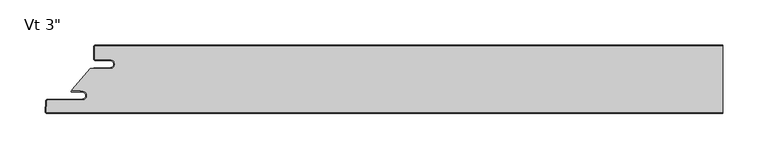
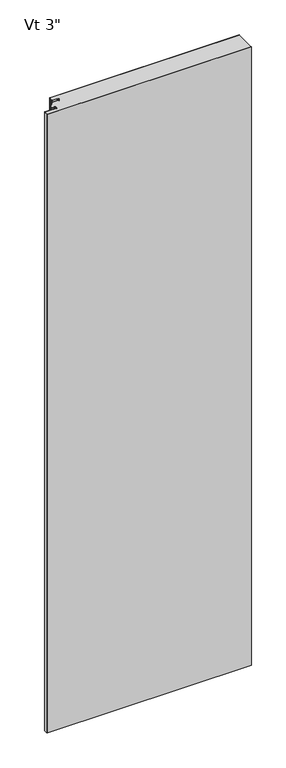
"""IFC4 building model written with IfcOpenShell, lengths in millimetres: plate geometry."""

from ifc_helpers import new_model, si_unit, point, frame_2d, origin, origin_with_axes, place, context, project, spatial, polyline, circle_curve, trimmed, segment, composite_curve, outline, extrude, source, transform, mapped, element, save


def plate_a0bbc088(model_context):
    return source(origin(), model_context, "Body", "SweptSolid", [
        extrude(outline(composite_curve([segment(polyline([(-329.9499998, -16.4625), (-345.8249998, -16.4625)]), True, "CONTINUOUS"), segment(trimmed(circle_curve(frame_2d((-345.8249998, -15.08125)), 1.38125), [point((-345.8249998, -16.4625))], [point((-347.2062498, -15.08125))], False, "CARTESIAN"), True, "CONTINUOUS"), segment(polyline([(-347.2062498, -15.08125), (-347.2062498, -2.38125)]), True, "CONTINUOUS"), segment(trimmed(circle_curve(frame_2d((-345.8249998, -2.38125)), 1.38125), [point((-347.2062498, -2.38125))], [point((-345.8249998, -1.0))], False, "CARTESIAN"), True, "CONTINUOUS"), segment(polyline([(-345.8249998, -1.0), (348.9999998, -1.0), (348.9999998, -75.2), (-399.6862034, -75.2)]), True, "CONTINUOUS"), segment(trimmed(circle_curve(frame_2d((-399.6862034, -73.81875)), 1.38125), [point((-399.6862034, -75.2))], [point((-401.0655604, -73.746461))], False, "CARTESIAN"), True, "CONTINUOUS"), segment(polyline([(-401.0655604, -73.746461), (-400.483179, -62.633961)]), True, "CONTINUOUS"), segment(trimmed(circle_curve(frame_2d((-399.1038219, -62.70625)), 1.38125), [point((-400.483179, -62.633961))], [point((-399.1038219, -61.325))], False, "CARTESIAN"), True, "CONTINUOUS"), segment(polyline([(-399.1038219, -61.325), (-360.9205173, -61.325)]), True, "CONTINUOUS"), segment(trimmed(circle_curve(frame_2d((-360.9205173, -56.35625)), 4.96875), [point((-360.9205173, -61.325))], [point((-360.9205173, -51.3875))], True, "CARTESIAN"), True, "CONTINUOUS"), segment(polyline([(-360.9205173, -51.3875), (-362.5080173, -51.59375), (-362.5080173, -50.8), (-372.0187498, -50.8), (-372.0187498, -49.2157227), (-352.1323421, -26.4), (-329.9499998, -26.4)]), True, "CONTINUOUS"), segment(trimmed(circle_curve(frame_2d((-329.9499998, -21.43125)), 4.96875), [point((-329.9499998, -26.4))], [point((-329.9499998, -16.4625))], True, "CARTESIAN"), True, "CONTINUOUS")], self_intersect=False)), origin_with_axes(), (0.0, 0.0, 1.0), 2400.0),
        extrude(outline(composite_curve([segment(polyline([(-348.2062498, -25.4), (-329.9499998, -25.4)]), True, "CONTINUOUS"), segment(trimmed(circle_curve(frame_2d((-329.9499998, -21.43125)), 3.96875), [point((-329.9499998, -25.4))], [point((-329.9499998, -17.4625))], True, "CARTESIAN"), True, "CONTINUOUS"), segment(polyline([(-329.9499998, -17.4625), (-345.8249998, -17.4625)]), True, "CONTINUOUS"), segment(trimmed(circle_curve(frame_2d((-345.8249998, -15.08125)), 2.38125), [point((-345.8249998, -17.4625))], [point((-348.2062498, -15.08125))], False, "CARTESIAN"), True, "CONTINUOUS"), segment(polyline([(-348.2062498, -15.08125), (-348.2062498, -2.38125)]), True, "CONTINUOUS"), segment(trimmed(circle_curve(frame_2d((-345.8249998, -2.38125)), 2.38125), [point((-348.2062498, -2.38125))], [point((-345.8249998, 0.0))], False, "CARTESIAN"), True, "CONTINUOUS"), segment(polyline([(-345.8249998, 0.0), (348.9999998, 0.0), (348.9999998, -1.0), (-345.8249998, -1.0)]), True, "CONTINUOUS"), segment(trimmed(circle_curve(frame_2d((-345.8249998, -2.38125)), 1.38125), [point((-345.8249998, -1.0))], [point((-347.2062498, -2.38125))], True, "CARTESIAN"), True, "CONTINUOUS"), segment(polyline([(-347.2062498, -2.38125), (-347.2062498, -15.08125)]), True, "CONTINUOUS"), segment(trimmed(circle_curve(frame_2d((-345.8249998, -15.08125)), 1.38125), [point((-347.2062498, -15.08125))], [point((-345.8249998, -16.4625))], True, "CARTESIAN"), True, "CONTINUOUS"), segment(polyline([(-345.8249998, -16.4625), (-329.9499998, -16.4625)]), True, "CONTINUOUS"), segment(trimmed(circle_curve(frame_2d((-329.9499998, -21.43125)), 4.96875), [point((-329.9499998, -16.4625))], [point((-329.9499998, -26.4))], False, "CARTESIAN"), True, "CONTINUOUS"), segment(polyline([(-329.9499998, -26.4), (-348.2062498, -26.4), (-348.2062498, -25.4)]), True, "CONTINUOUS")], self_intersect=False)), origin_with_axes(), (0.0, 0.0, 1.0), 2400.0),
        extrude(outline(composite_curve([segment(polyline([(-372.2314548, -50.8), (-362.5080173, -50.8), (-362.5080173, -51.59375), (-360.9205173, -51.3875)]), True, "CONTINUOUS"), segment(trimmed(circle_curve(frame_2d((-360.9205173, -56.35625)), 4.96875), [point((-360.9205173, -51.3875))], [point((-360.9205173, -61.325))], False, "CARTESIAN"), True, "CONTINUOUS"), segment(polyline([(-360.9205173, -61.325), (-399.1038219, -61.325)]), True, "CONTINUOUS"), segment(trimmed(circle_curve(frame_2d((-399.1038219, -62.70625)), 1.38125), [point((-399.1038219, -61.325))], [point((-400.483179, -62.633961))], True, "CARTESIAN"), True, "CONTINUOUS"), segment(polyline([(-400.483179, -62.633961), (-401.0655604, -73.746461)]), True, "CONTINUOUS"), segment(trimmed(circle_curve(frame_2d((-399.6862034, -73.81875)), 1.38125), [point((-401.0655604, -73.746461))], [point((-399.6862034, -75.2))], True, "CARTESIAN"), True, "CONTINUOUS"), segment(polyline([(-399.6862034, -75.2), (348.9999998, -75.2), (348.9999998, -76.2), (-399.6862034, -76.2)]), True, "CONTINUOUS"), segment(trimmed(circle_curve(frame_2d((-399.6862034, -73.81875)), 2.38125), [point((-399.6862034, -76.2))], [point((-402.0641899, -73.694125))], False, "CARTESIAN"), True, "CONTINUOUS"), segment(polyline([(-402.0641899, -73.694125), (-401.4818085, -62.581625)]), True, "CONTINUOUS"), segment(trimmed(circle_curve(frame_2d((-399.1038219, -62.70625)), 2.38125), [point((-401.4818085, -62.581625))], [point((-399.1038219, -60.325))], False, "CARTESIAN"), True, "CONTINUOUS"), segment(polyline([(-399.1038219, -60.325), (-360.9205173, -60.325)]), True, "CONTINUOUS"), segment(trimmed(circle_curve(frame_2d((-360.9205173, -56.35625)), 3.96875), [point((-360.9205173, -60.325))], [point((-360.9205173, -52.3875))], True, "CARTESIAN"), True, "CONTINUOUS"), segment(polyline([(-360.9205173, -52.3875), (-372.2314548, -52.3875)]), True, "CONTINUOUS"), segment(trimmed(circle_curve(frame_2d((-372.2314548, -51.59375)), 0.79375), [point((-372.2314548, -52.3875))], [point((-372.2314548, -50.8))], False, "CARTESIAN"), True, "CONTINUOUS")], self_intersect=False)), origin_with_axes(), (0.0, 0.0, 1.0), 2400.0),
    ])


if __name__ == "__main__":
    model = new_model("IFC4")
    model_context = context("Model", 3, world=origin())
    ifc_project = project(units=[si_unit("LENGTHUNIT", "METRE", prefix="MILLI")], contexts=[model_context])
    site = spatial("IfcSite", under=ifc_project)
    building = spatial("IfcBuilding", under=site)
    placement = place(None, origin())
    plate_shape = plate_a0bbc088(model_context)
    element("IfcPlate", 1, ObjectType="KIP-30-DWTR-R19-CP-Vt-F : Vt 3\"", at=placement, inside=building, context=model_context, shape_type="MappedRepresentation", body=[
        mapped(plate_shape, transform((0.0, 0.0, 0.0), x_axis=(1.0, 0.0, 0.0), y_axis=(0.0, 1.0, 0.0), z_axis=(0.0, 0.0, 1.0))),
    ])
    save(model, "model.ifc")
